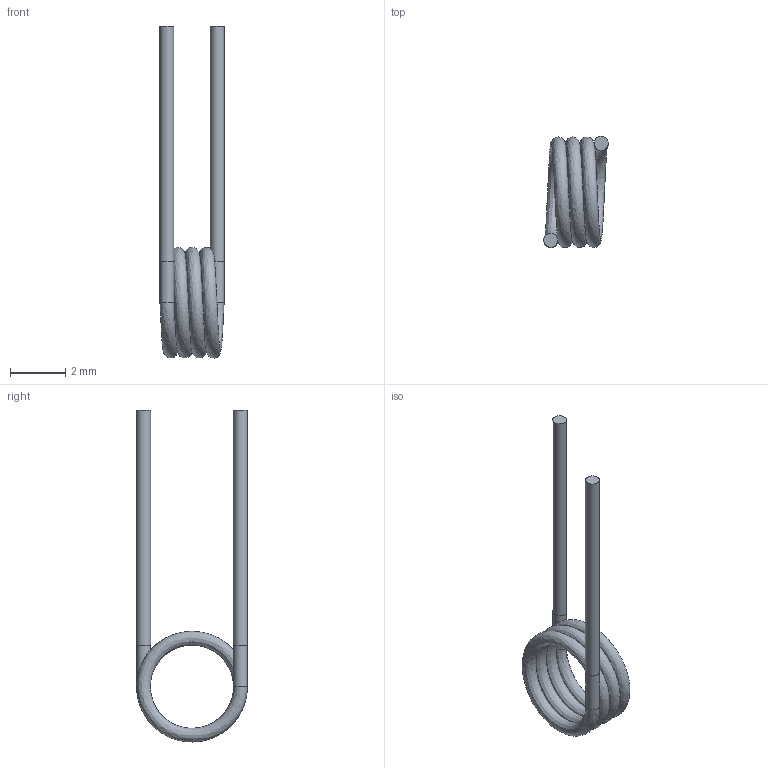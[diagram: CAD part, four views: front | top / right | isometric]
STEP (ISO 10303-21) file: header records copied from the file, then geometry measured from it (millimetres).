
FILE_DESCRIPTION(/* description */ (''),/* implementation_level */ '2;1');
FILE_NAME(/* name */ '\\Snap1\dwgs\Customer 3D Models\555\555-2030-03.stp',/* time_stamp */ '2016-12-22T16:31:57+00:00',/* author */ ('P. Karlsons'),/* organization */ (''),/* preprocessor_version */ 'ST-DEVELOPER v15.2',/* originating_system */ 'Autodesk Inventor 2014',/* authorisation */ '');
FILE_SCHEMA (('CONFIG_CONTROL_DESIGN'));
Length unit declared in the file: millimetre
Products named in the file (1): 555-2030-03
Bounding box: 2.33 x 4.01 x 12 mm (x, y, z)
Volume: 11.6 mm3; surface area: 92.9 mm2
Topology: 1 solids, 1 shells, 9 faces, 17 edges, 12 vertices
Faces by surface type: plane 4, cylinder 4, bspline 1
Full cylindrical faces by diameter (mm): 0.5 x2, 0.51 x2
Entity records: 782 total; most frequent: CARTESIAN_POINT 572, DIRECTION 42, ORIENTED_EDGE 26, AXIS2_PLACEMENT_3D 21, EDGE_LOOP 15, EDGE_CURVE 13, CIRCLE 12, VERTEX_POINT 12
